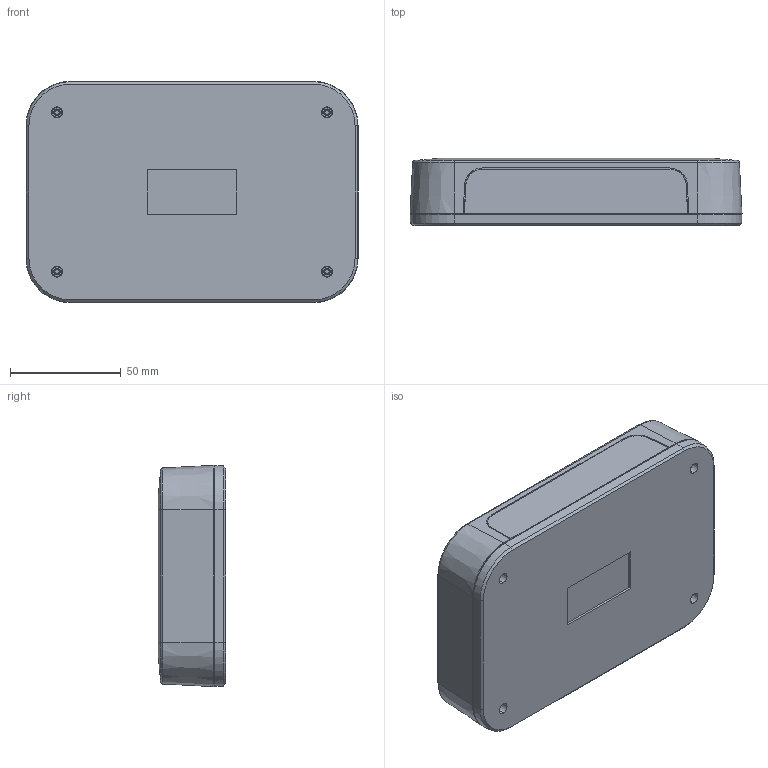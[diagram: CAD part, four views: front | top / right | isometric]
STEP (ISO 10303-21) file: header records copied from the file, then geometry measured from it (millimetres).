
FILE_DESCRIPTION (( 'STEP AP203' ), '1' );
FILE_NAME ('HH-1510-0-0.STEP', '2023-10-26T06:17:49', ( '' ), ( '' ), 'SwSTEP 2.0', 'SolidWorks 2021', '' );
FILE_SCHEMA (( 'CONFIG_CONTROL_DESIGN' ));
Length unit declared in the file: millimetre
Products named in the file (4): HH-1510-P-1_; HH-1510-P-1; HH-1510-P-1-; HH-1510-0-0
Assembly tree (3 placements, depth 2):
  HH-1510-0-0
    HH-1510-P-1-
    HH-1510-P-1
    HH-1510-P-1_
Bounding box: 150 x 30.5 x 100 mm (x, y, z)
Volume: 120540.9 mm3; surface area: 89557.4 mm2
Topology: 3 solids, 3 shells, 405 faces, 988 edges, 640 vertices
Faces by surface type: plane 189, cone 162, cylinder 38, bspline 12, torus 4
Entity records: 13024 total; most frequent: CARTESIAN_POINT 2951, DIRECTION 2050, ORIENTED_EDGE 1976, EDGE_CURVE 988, AXIS2_PLACEMENT_3D 755, VERTEX_POINT 640, LINE 540, VECTOR 540
